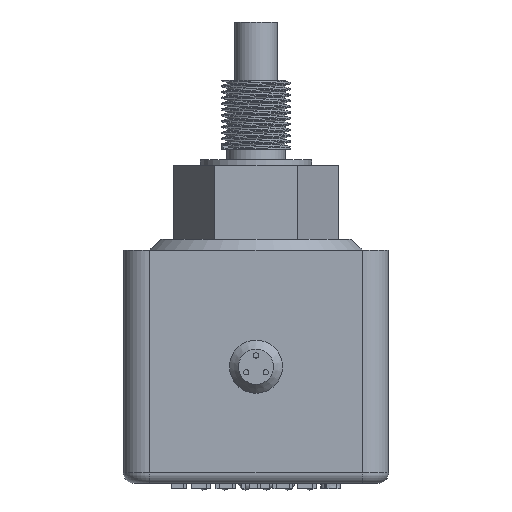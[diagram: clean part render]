
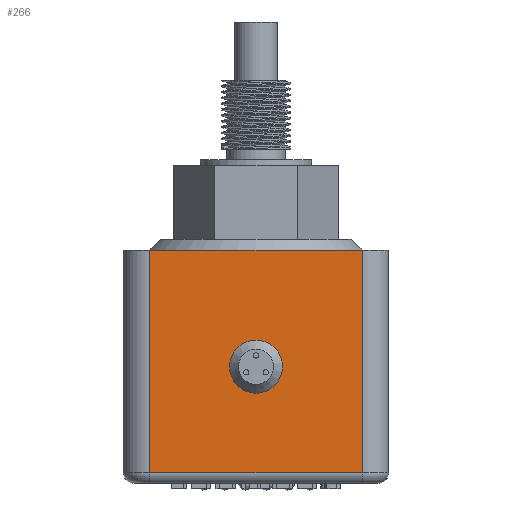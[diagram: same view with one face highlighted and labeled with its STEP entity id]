
A CAD part, front view. The second image highlights one B-rep face of the part: STEP entity #266.
In plain terms, the highlighted planar face has unit normal (0, -1, 0).
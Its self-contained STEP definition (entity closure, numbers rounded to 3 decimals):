
#266=ADVANCED_FACE('',(#809,#810),#406,.F.);
#406=PLANE('',#2452);
#508=LINE('',#3553,#624);
#509=LINE('',#3559,#625);
#510=LINE('',#3561,#626);
#511=LINE('',#3563,#627);
#624=VECTOR('',#2644,1.);
#625=VECTOR('',#2651,1.);
#626=VECTOR('',#2652,1.);
#627=VECTOR('',#2653,1.);
#762=CIRCLE('',#2451,5.);
#809=FACE_BOUND('',#870,.T.);
#810=FACE_BOUND('',#871,.T.);
#870=EDGE_LOOP('',(#1135));
#871=EDGE_LOOP('',(#1136,#1137,#1138,#1139));
#1135=ORIENTED_EDGE('',*,*,#2020,.F.);
#1136=ORIENTED_EDGE('',*,*,#2018,.T.);
#1137=ORIENTED_EDGE('',*,*,#2021,.T.);
#1138=ORIENTED_EDGE('',*,*,#2022,.F.);
#1139=ORIENTED_EDGE('',*,*,#2023,.F.);
#1789=VERTEX_POINT('',#3552);
#1790=VERTEX_POINT('',#3554);
#1791=VERTEX_POINT('',#3558);
#1792=VERTEX_POINT('',#3560);
#1793=VERTEX_POINT('',#3562);
#2018=EDGE_CURVE('',#1790,#1789,#508,.T.);
#2020=EDGE_CURVE('',#1791,#1791,#762,.T.);
#2021=EDGE_CURVE('',#1789,#1792,#509,.T.);
#2022=EDGE_CURVE('',#1793,#1792,#510,.T.);
#2023=EDGE_CURVE('',#1790,#1793,#511,.T.);
#2451=AXIS2_PLACEMENT_3D('',#3557,#2649,#2650);
#2452=AXIS2_PLACEMENT_3D('',#3564,#2654,#2655);
#2644=DIRECTION('',(0.,0.,-1.));
#2649=DIRECTION('',(0.,-1.,0.));
#2650=DIRECTION('',(0.,0.,1.));
#2651=DIRECTION('',(1.,0.,0.));
#2652=DIRECTION('',(0.,0.,-1.));
#2653=DIRECTION('',(1.,0.,0.));
#2654=DIRECTION('',(0.,1.,0.));
#2655=DIRECTION('',(0.,0.,1.));
#3552=CARTESIAN_POINT('',(-20.,0.,2.));
#3553=CARTESIAN_POINT('',(-20.,0.,44.));
#3554=CARTESIAN_POINT('',(-20.,0.,44.));
#3557=CARTESIAN_POINT('',(0.,0.,22.));
#3558=CARTESIAN_POINT('',(0.,0.,27.));
#3559=CARTESIAN_POINT('',(-20.,0.,2.));
#3560=CARTESIAN_POINT('',(20.,0.,2.));
#3561=CARTESIAN_POINT('',(20.,0.,44.));
#3562=CARTESIAN_POINT('',(20.,0.,44.));
#3563=CARTESIAN_POINT('',(-20.,0.,44.));
#3564=CARTESIAN_POINT('',(-20.,0.,44.));
